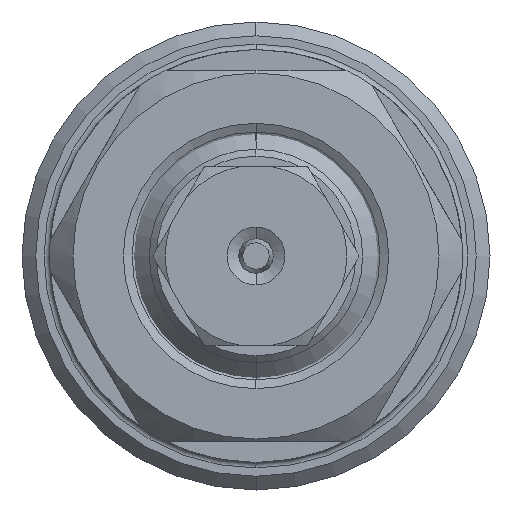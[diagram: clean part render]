
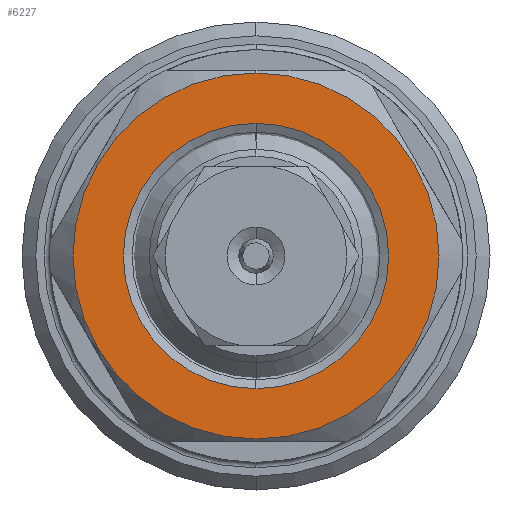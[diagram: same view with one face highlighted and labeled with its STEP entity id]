
A CAD part, left-side view. The second image highlights one B-rep face of the part: STEP entity #6227.
In plain terms, the highlighted planar face has unit normal (-1, 0, 0).
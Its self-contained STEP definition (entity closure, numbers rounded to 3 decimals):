
#172 = ORIENTED_EDGE ( 'NONE', *, *, #14331, .F. ) ;
#961 = VERTEX_POINT ( 'NONE', #19104 ) ;
#1930 = VERTEX_POINT ( 'NONE', #8630 ) ;
#1939 = AXIS2_PLACEMENT_3D ( 'NONE', #8746, #8740, #8700 ) ;
#2147 = EDGE_LOOP ( 'NONE', ( #17891, #11304 ) ) ;
#2251 = CARTESIAN_POINT ( 'NONE',  ( -78., 0., -9.636 ) ) ;
#2587 = EDGE_LOOP ( 'NONE', ( #172, #19682 ) ) ;
#6035 = CIRCLE ( 'NONE', #14074, 9.636 ) ;
#6227 = ADVANCED_FACE ( 'NONE', ( #10780, #17412 ), #9205, .T. ) ;
#6493 = DIRECTION ( 'NONE',  ( 1., 0., 0. ) ) ;
#7158 = EDGE_CURVE ( 'NONE', #1930, #9094, #6035, .T. ) ;
#7459 = CARTESIAN_POINT ( 'NONE',  ( -78., 0., -13.3 ) ) ;
#8630 = CARTESIAN_POINT ( 'NONE',  ( -78., 0., 9.636 ) ) ;
#8669 = VERTEX_POINT ( 'NONE', #7459 ) ;
#8700 = DIRECTION ( 'NONE',  ( 0., 0., -1. ) ) ;
#8740 = DIRECTION ( 'NONE',  ( 1., 0., 0. ) ) ;
#8746 = CARTESIAN_POINT ( 'NONE',  ( -78., 0., 0. ) ) ;
#8858 = CARTESIAN_POINT ( 'NONE',  ( -78., 0., 0. ) ) ;
#8875 = DIRECTION ( 'NONE',  ( 0., 0., -1. ) ) ;
#8961 = DIRECTION ( 'NONE',  ( 0., 0., 1. ) ) ;
#8980 = DIRECTION ( 'NONE',  ( -1., 0., 0. ) ) ;
#8986 = CARTESIAN_POINT ( 'NONE',  ( -78., 13.3, 0. ) ) ;
#9094 = VERTEX_POINT ( 'NONE', #2251 ) ;
#9205 = PLANE ( 'NONE',  #13607 ) ;
#10780 = FACE_BOUND ( 'NONE', #2147, .T. ) ;
#11304 = ORIENTED_EDGE ( 'NONE', *, *, #11619, .T. ) ;
#11619 = EDGE_CURVE ( 'NONE', #9094, #1930, #12341, .T. ) ;
#12341 = CIRCLE ( 'NONE', #18963, 9.636 ) ;
#13607 = AXIS2_PLACEMENT_3D ( 'NONE', #8986, #8980, #8961 ) ;
#13769 = EDGE_CURVE ( 'NONE', #961, #8669, #17625, .T. ) ;
#14074 = AXIS2_PLACEMENT_3D ( 'NONE', #20161, #20047, #19910 ) ;
#14331 = EDGE_CURVE ( 'NONE', #8669, #961, #16065, .T. ) ;
#15363 = DIRECTION ( 'NONE',  ( 0., 0., 1. ) ) ;
#16065 = CIRCLE ( 'NONE', #16169, 13.3 ) ;
#16169 = AXIS2_PLACEMENT_3D ( 'NONE', #8858, #6493, #8875 ) ;
#17412 = FACE_OUTER_BOUND ( 'NONE', #2587, .T. ) ;
#17625 = CIRCLE ( 'NONE', #1939, 13.3 ) ;
#17891 = ORIENTED_EDGE ( 'NONE', *, *, #7158, .T. ) ;
#18963 = AXIS2_PLACEMENT_3D ( 'NONE', #19710, #19597, #15363 ) ;
#19104 = CARTESIAN_POINT ( 'NONE',  ( -78., 0., 13.3 ) ) ;
#19597 = DIRECTION ( 'NONE',  ( 1., 0., 0. ) ) ;
#19682 = ORIENTED_EDGE ( 'NONE', *, *, #13769, .F. ) ;
#19710 = CARTESIAN_POINT ( 'NONE',  ( -78., 0., 0. ) ) ;
#19910 = DIRECTION ( 'NONE',  ( 0., 0., 1. ) ) ;
#20047 = DIRECTION ( 'NONE',  ( 1., 0., 0. ) ) ;
#20161 = CARTESIAN_POINT ( 'NONE',  ( -78., 0., 0. ) ) ;
